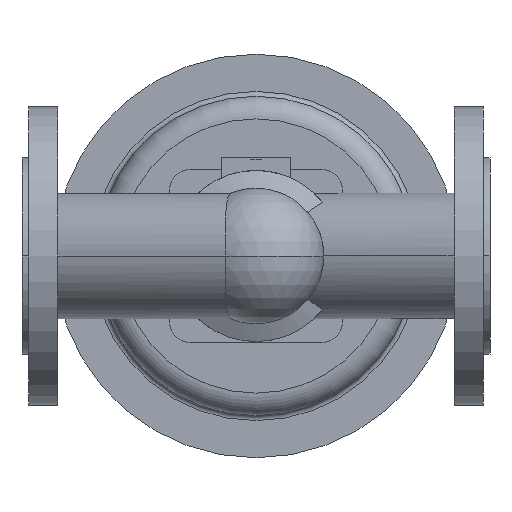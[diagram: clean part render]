
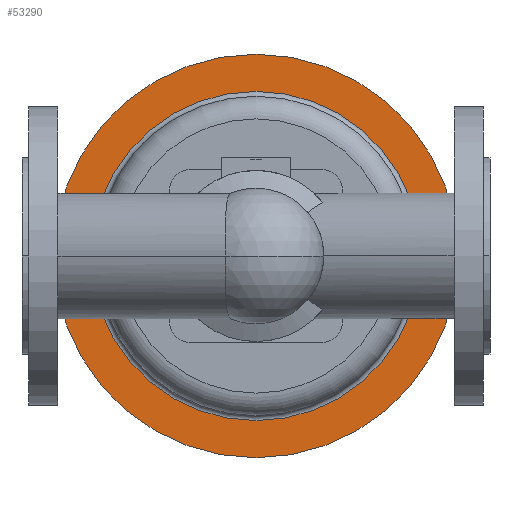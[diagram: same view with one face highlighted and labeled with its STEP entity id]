
A CAD part, front view. The second image highlights one B-rep face of the part: STEP entity #53290.
In plain terms, the highlighted planar face has unit normal (0, -1, 0).
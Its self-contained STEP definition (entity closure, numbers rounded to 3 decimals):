
#52790=CARTESIAN_POINT('',(43.,644.5,0.));
#52800=VERTEX_POINT('',#52790);
#52830=CARTESIAN_POINT('',(145.,644.5,0.));
#52840=DIRECTION('',(0.,1.,0.));
#52850=DIRECTION('',(1.,0.,0.));
#52860=AXIS2_PLACEMENT_3D('',#52830,#52840,#52850);
#52870=CIRCLE('',#52860,102.);
#52880=CARTESIAN_POINT('',(247.,644.5,0.));
#52890=VERTEX_POINT('',#52880);
#52900=EDGE_CURVE('',#52800,#52890,#52870,.T.);
#53040=CARTESIAN_POINT('',(258.5,644.5,0.));
#53050=DIRECTION('',(0.,-1.,0.));
#53060=DIRECTION('',(-1.,0.,0.));
#53070=AXIS2_PLACEMENT_3D('',#53040,#53050,#53060);
#53080=PLANE('',#53070);
#53090=CARTESIAN_POINT('',(145.,644.5,0.));
#53100=DIRECTION('',(0.,1.,0.));
#53110=DIRECTION('',(1.,0.,0.));
#53120=AXIS2_PLACEMENT_3D('',#53090,#53100,#53110);
#53130=CIRCLE('',#53120,125.);
#53140=CARTESIAN_POINT('',(270.,644.5,0.));
#53150=VERTEX_POINT('',#53140);
#53160=CARTESIAN_POINT('',(20.,644.5,0.));
#53170=VERTEX_POINT('',#53160);
#53180=EDGE_CURVE('',#53150,#53170,#53130,.T.);
#53190=ORIENTED_EDGE('',*,*,#53180,.F.);
#53200=EDGE_CURVE('',#53170,#53150,#53130,.T.);
#53210=ORIENTED_EDGE('',*,*,#53200,.F.);
#53220=EDGE_LOOP('',(#53210,#53190));
#53230=FACE_OUTER_BOUND('',#53220,.T.);
#53240=EDGE_CURVE('',#52890,#52800,#52870,.T.);
#53250=ORIENTED_EDGE('',*,*,#53240,.T.);
#53260=ORIENTED_EDGE('',*,*,#52900,.T.);
#53270=EDGE_LOOP('',(#53260,#53250));
#53280=FACE_BOUND('',#53270,.T.);
#53290=ADVANCED_FACE('',(#53230,#53280),#53080,.T.);
